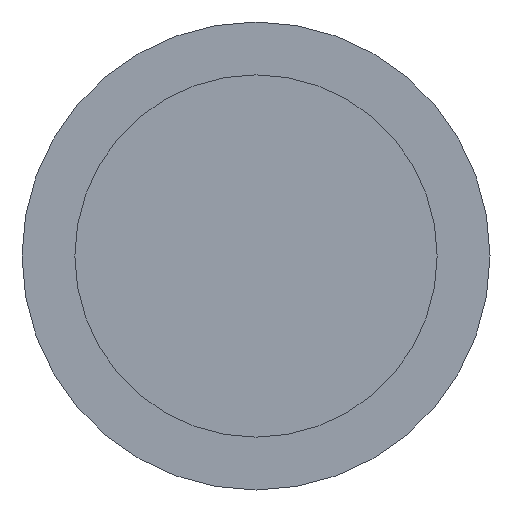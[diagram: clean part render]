
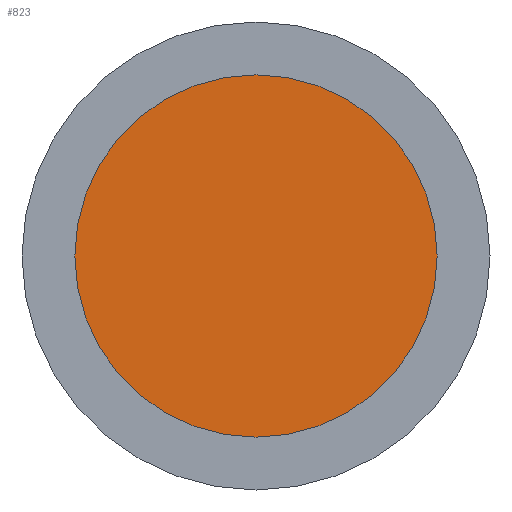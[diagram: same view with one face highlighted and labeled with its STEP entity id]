
A CAD part, front view. The second image highlights one B-rep face of the part: STEP entity #823.
In plain terms, the highlighted planar face has unit normal (0, -1, 0).
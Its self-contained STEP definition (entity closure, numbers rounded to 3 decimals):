
#103=CIRCLE('',#933,2.4);
#361=ORIENTED_EDGE('',*,*,#477,.F.);
#477=EDGE_CURVE('',#545,#545,#103,.T.);
#545=VERTEX_POINT('',#1594);
#699=EDGE_LOOP('',(#361));
#757=FACE_BOUND('',#699,.T.);
#769=PLANE('',#934);
#823=ADVANCED_FACE('',(#757),#769,.F.);
#933=AXIS2_PLACEMENT_3D('',#1593,#1177,#1178);
#934=AXIS2_PLACEMENT_3D('',#1595,#1179,#1180);
#1177=DIRECTION('',(0.,1.,0.));
#1178=DIRECTION('',(1.,0.,0.));
#1179=DIRECTION('',(0.,1.,0.));
#1180=DIRECTION('',(0.,0.,1.));
#1593=CARTESIAN_POINT('',(0.,0.2,0.));
#1594=CARTESIAN_POINT('',(2.4,0.2,0.));
#1595=CARTESIAN_POINT('',(0.,0.2,0.));
